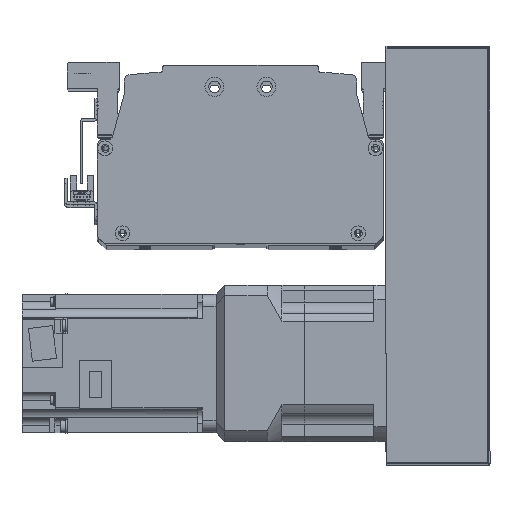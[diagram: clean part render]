
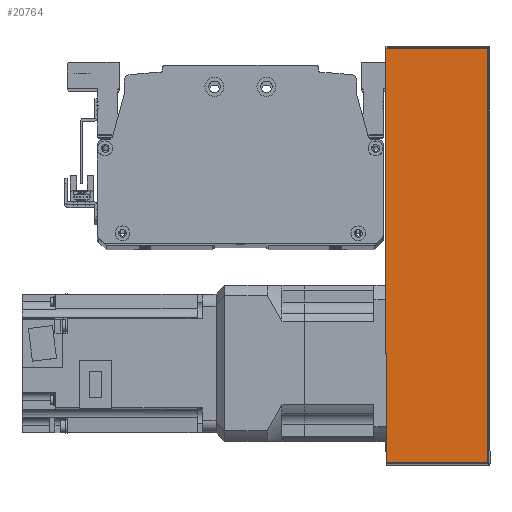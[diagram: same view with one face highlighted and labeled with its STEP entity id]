
A CAD part, top view. The second image highlights one B-rep face of the part: STEP entity #20764.
In plain terms, the highlighted planar face has unit normal (0, 0, 1) as drawn and (0, 1, 0) by its records, which use the part's own axes.
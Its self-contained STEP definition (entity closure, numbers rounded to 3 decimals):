
#558=PLANE('',#22632);
#1689=LINE('',#33017,#3349);
#1708=LINE('',#33101,#3368);
#1710=LINE('',#33111,#3370);
#1711=LINE('',#33113,#3371);
#3349=VECTOR('',#26858,10.);
#3368=VECTOR('',#26971,10.);
#3370=VECTOR('',#26985,10.);
#3371=VECTOR('',#26988,10.);
#5371=FACE_OUTER_BOUND('',#6815,.T.);
#6815=EDGE_LOOP('',(#16296,#16297,#16298,#16299));
#9695=VERTEX_POINT('',#33014);
#9696=VERTEX_POINT('',#33016);
#9713=VERTEX_POINT('',#33095);
#9716=VERTEX_POINT('',#33107);
#12059=EDGE_CURVE('',#9696,#9695,#1689,.T.);
#12102=EDGE_CURVE('',#9713,#9696,#1708,.T.);
#12107=EDGE_CURVE('',#9695,#9716,#1710,.T.);
#12108=EDGE_CURVE('',#9716,#9713,#1711,.T.);
#16296=ORIENTED_EDGE('',*,*,#12102,.T.);
#16297=ORIENTED_EDGE('',*,*,#12059,.T.);
#16298=ORIENTED_EDGE('',*,*,#12107,.T.);
#16299=ORIENTED_EDGE('',*,*,#12108,.T.);
#20764=ADVANCED_FACE('',(#5371),#558,.F.);
#22632=AXIS2_PLACEMENT_3D('',#33120,#26997,#26998);
#26858=DIRECTION('',(-1.,0.,0.));
#26971=DIRECTION('',(0.,0.,-1.));
#26985=DIRECTION('',(0.,0.,1.));
#26988=DIRECTION('',(1.,0.,0.));
#26997=DIRECTION('center_axis',(0.,-1.,0.));
#26998=DIRECTION('ref_axis',(-1.,0.,0.));
#33014=CARTESIAN_POINT('',(-120.,51.,-30.));
#33016=CARTESIAN_POINT('',(120.,51.,-30.));
#33017=CARTESIAN_POINT('',(-121.,51.,-30.));
#33095=CARTESIAN_POINT('',(120.,51.,29.));
#33101=CARTESIAN_POINT('',(120.,51.,0.));
#33107=CARTESIAN_POINT('',(-120.,51.,29.));
#33111=CARTESIAN_POINT('',(-120.,51.,0.));
#33113=CARTESIAN_POINT('',(60.5,51.,29.));
#33120=CARTESIAN_POINT('Origin',(121.,51.,0.));
